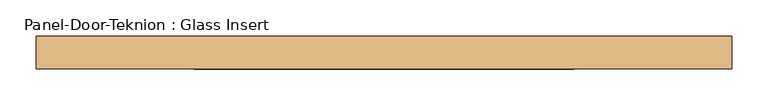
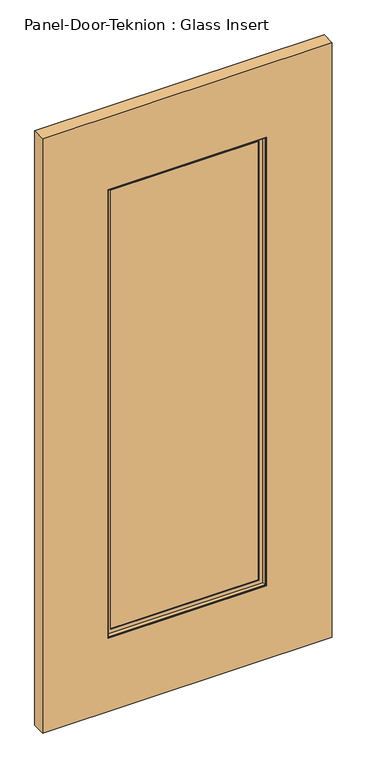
"""IFC4 building model written with IfcOpenShell, lengths in millimetres: door geometry, Panel-Door-Teknion : Glass Insert."""

from ifc_helpers import new_model, si_unit, frame, origin, place, context, project, spatial, polyline, outline, extrude, faceted_brep, source, transform, mapped, element, save


def panel_door_teknion_glass_insert_eabc73e1(model_context):
    return source(origin(), model_context, "Body", "SolidModel", [
        extrude(outline(polyline([(260.3601562, -3.175), (-260.3601562, -3.175), (-260.3601562, 3.175), (260.3601562, 3.175), (260.3601562, -3.175)])), frame((0.0, 0.0, 266.7), z_axis=(0.0, 0.0, 1.0), x_axis=(1.0, 0.0, 0.0)), (0.0, 0.0, 1.0), 1558.2825997),
        faceted_brep([(-244.4695772, 3.797467, 1809.0920207), (-244.4695772, 3.797467, 282.590579), (-244.4695772, 6.9755828, 282.590579), (-244.4695772, 6.9755828, 1809.0920207), (244.4695772, 3.797467, 282.590579), (244.4695772, 6.9755828, 282.590579), (257.1820404, 6.9755828, 269.8781158), (-257.1820404, 6.9755828, 269.8781158), (-257.1820404, 6.9755828, 1821.8044839), (257.1820404, 6.9755828, 1821.8044839), (244.4695772, 6.9755828, 1809.0920207), (244.4695772, 3.797467, 1809.0920207), (-260.3601562, 3.797467, 266.7), (260.3601562, 3.797467, 266.7), (260.3601562, 3.797467, 1824.9825997), (-260.3601562, 3.797467, 1824.9825997), (-260.3601562, 19.688046, 1824.9825997), (-260.3601562, 19.688046, 266.7), (260.3601562, 19.688046, 266.7), (260.3601562, 19.688046, 1824.9825997), (-257.1820404, 19.688046, 269.8781158), (257.1820404, 19.688046, 269.8781158), (257.1820404, 19.688046, 1821.8044839), (-257.1820404, 19.688046, 1821.8044839)], [[[0, 1, 2, 3]], [[1, 4, 5, 2]], [[6, 7, 8, 9], [2, 5, 10, 3]], [[4, 11, 10, 5]], [[12, 13, 14, 15], [4, 1, 0, 11]], [[16, 17, 12, 15]], [[17, 18, 13, 12]], [[18, 19, 14, 13]], [[18, 17, 16, 19], [20, 21, 22, 23]], [[8, 7, 20, 23]], [[7, 6, 21, 20]], [[6, 9, 22, 21]], [[11, 0, 3, 10]], [[19, 16, 15, 14]], [[9, 8, 23, 22]]]),
        faceted_brep([(-257.1820404, -19.688046, 1821.8044839), (-257.1820404, -19.688046, 269.8781158), (-257.1820404, -6.9755828, 269.8781158), (-257.1820404, -6.9755828, 1821.8044839), (257.1820404, -19.688046, 269.8781158), (257.1820404, -6.9755828, 269.8781158), (257.1820404, -6.9755828, 1821.8044839), (244.4695772, -6.9755828, 282.590579), (-244.4695772, -6.9755828, 282.590579), (-244.4695772, -6.9755828, 1809.0920207), (244.4695772, -6.9755828, 1809.0920207), (257.1820404, -19.688046, 1821.8044839), (-260.3601562, -19.688046, 266.7), (260.3601562, -19.688046, 266.7), (260.3601562, -19.688046, 1824.9825997), (-260.3601562, -19.688046, 1824.9825997), (-260.3601562, -3.797467, 1824.9825997), (-260.3601562, -3.797467, 266.7), (260.3601562, -3.797467, 266.7), (260.3601562, -3.797467, 1824.9825997), (-244.4695772, -3.797467, 282.590579), (244.4695772, -3.797467, 282.590579), (244.4695772, -3.797467, 1809.0920207), (-244.4695772, -3.797467, 1809.0920207)], [[[0, 1, 2, 3]], [[1, 4, 5, 2]], [[2, 5, 6, 3], [7, 8, 9, 10]], [[4, 11, 6, 5]], [[12, 13, 14, 15], [4, 1, 0, 11]], [[16, 17, 12, 15]], [[17, 18, 13, 12]], [[18, 19, 14, 13]], [[18, 17, 16, 19], [20, 21, 22, 23]], [[9, 8, 20, 23]], [[8, 7, 21, 20]], [[7, 10, 22, 21]], [[11, 0, 3, 6]], [[19, 16, 15, 14]], [[10, 9, 23, 22]]]),
        extrude(outline(polyline([(2078.9825997, -476.2601562), (12.7, -476.2601562), (12.7, 476.2601562), (2078.9825997, 476.2601562), (2078.9825997, -476.2601562)]), holes=[polyline([(1824.9825997, 260.3601562), (266.7, 260.3601562), (266.7, -260.3601562), (1824.9825997, -260.3601562), (1824.9825997, 260.3601562)])]), frame((0.0, -22.225, 0.0), z_axis=(0.0, 1.0, 0.0), x_axis=(0.0, 0.0, 1.0)), (0.0, 0.0, 1.0), 44.45),
    ])


if __name__ == "__main__":
    model = new_model("IFC4")
    model_context = context("Model", 3, world=origin())
    ifc_project = project(units=[si_unit("LENGTHUNIT", "METRE", prefix="MILLI")], contexts=[model_context])
    site = spatial("IfcSite", under=ifc_project)
    building = spatial("IfcBuilding", under=site)
    placement = place(None, origin())
    panel_door_teknion_glass_insert_shape = panel_door_teknion_glass_insert_eabc73e1(model_context)
    element("IfcDoor", 1, ObjectType="Panel-Door-Teknion : Glass Insert", at=placement, inside=building, context=model_context, shape_type="MappedRepresentation", body=[
        mapped(panel_door_teknion_glass_insert_shape, transform((0.0, 0.0, 0.0), x_axis=(1.0, 0.0, 0.0), y_axis=(0.0, 1.0, 0.0), z_axis=(0.0, 0.0, 1.0))),
    ])
    save(model, "model.ifc")
